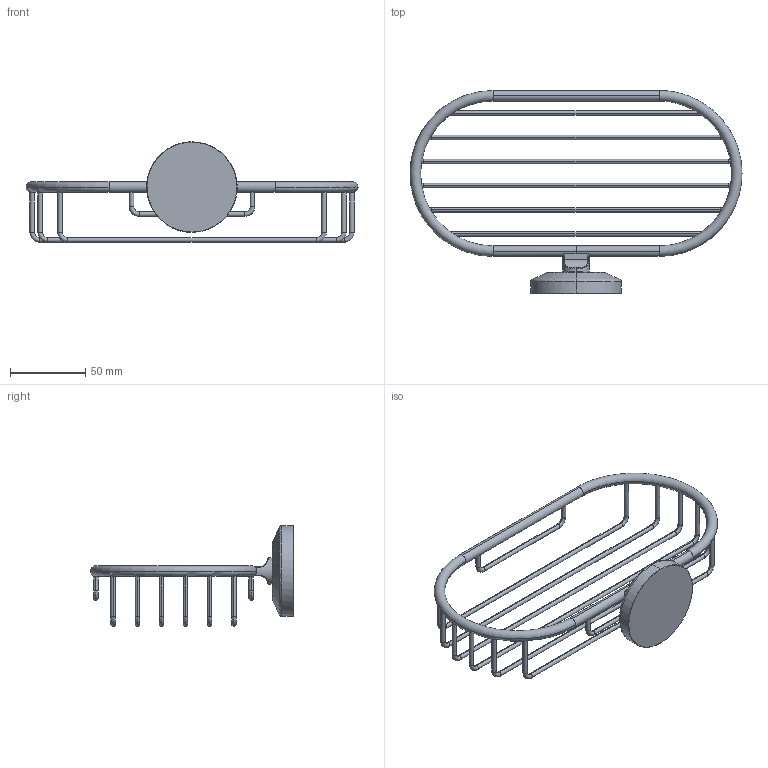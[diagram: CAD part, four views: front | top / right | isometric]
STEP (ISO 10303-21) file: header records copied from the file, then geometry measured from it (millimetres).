
FILE_DESCRIPTION(('THIS FILE CONTAINS SOME STEP INSTANCES'),'1');
FILE_NAME('sta_048.stp','2015-12-07T13:00:38',('UNDEFINED'),('UNDEFINED'),'T-FLEX CAD STEP converter','T-FLEX CAD','');
FILE_SCHEMA(('CONFIG_CONTROL_DESIGN'));
Length unit declared in the file: metre
Products named in the file (1): 3D 鐨飹懤艜_15
Bounding box: 220 x 134.5 x 66.5 mm (x, y, z)
Volume: 69756.2 mm3; surface area: 35933.7 mm2
Topology: 1 solids, 1 shells, 127 faces, 291 edges, 161 vertices
Faces by surface type: cylinder 64, torus 40, bspline 9, plane 8, cone 6
Entity records: 8821 total; most frequent: CARTESIAN_POINT 6480, ORIENTED_EDGE 582, DIRECTION 366, EDGE_CURVE 291, VERTEX_POINT 161, AXIS2_PLACEMENT_3D 141, EDGE_LOOP 140, ADVANCED_FACE 127
